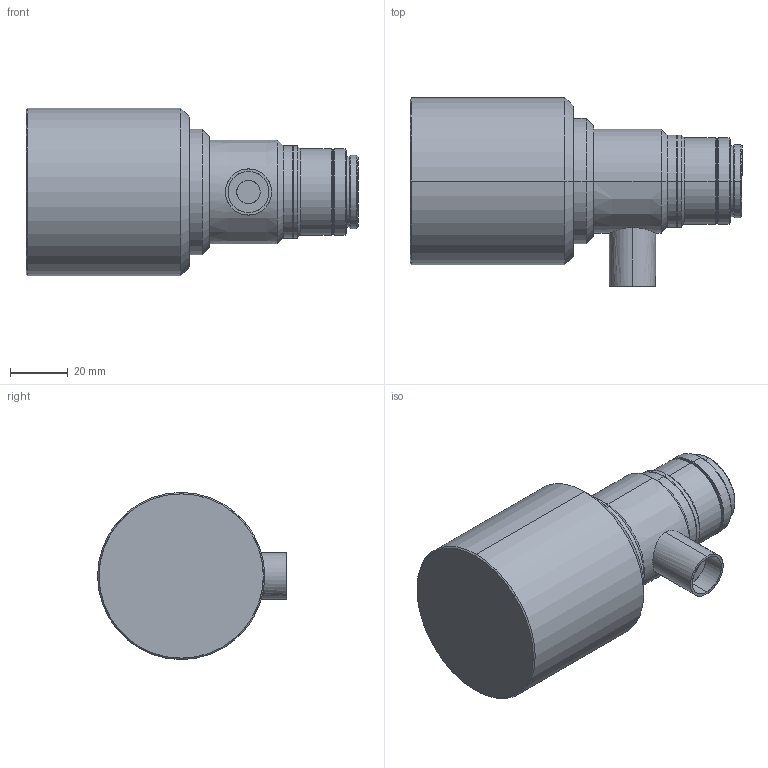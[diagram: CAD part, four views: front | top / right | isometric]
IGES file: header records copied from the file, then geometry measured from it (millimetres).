
Start section: SolidWorks IGES file using analytic representation for surfaces
Bounding box: 115.2 x 65.5 x 58 mm (x, y, z)
Surface area: 22757.3 mm2 (no closed solid volume)
Topology: 0 solids, 0 shells, 62 faces, 1146 edges, 1146 vertices
Faces by surface type: revolution 52, bspline 10
